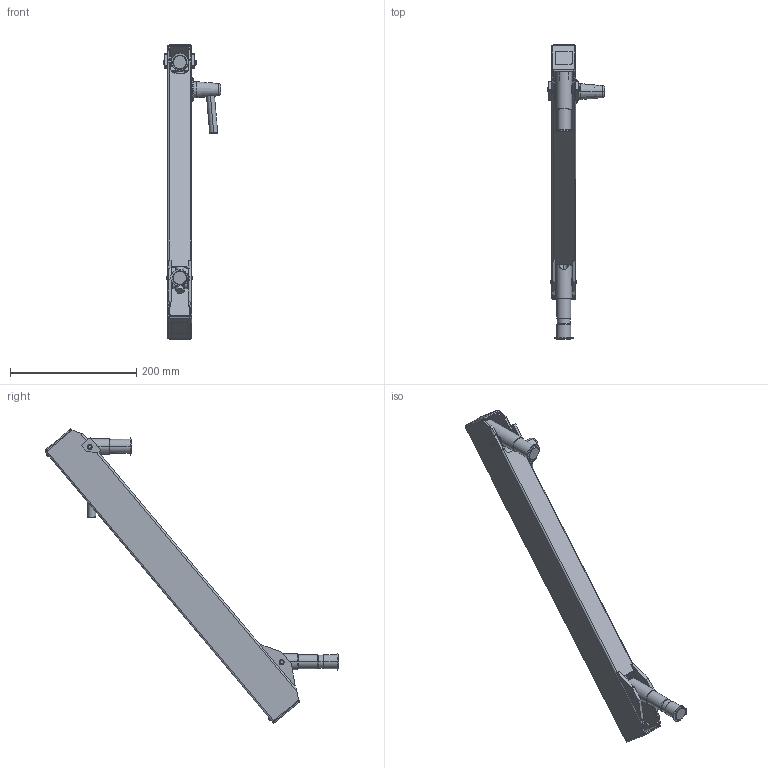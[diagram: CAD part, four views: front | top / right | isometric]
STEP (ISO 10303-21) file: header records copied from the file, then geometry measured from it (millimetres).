
FILE_DESCRIPTION (( 'STEP AP203' ), '1' );
FILE_NAME ('70-1833-00 REV AA, FLEX SECTION, 18in, 6-33 LB - UP.STEP', '2025-06-10T23:23:31', ( '' ), ( '' ), 'SwSTEP 2.0', 'SolidWorks 2025', '' );
FILE_SCHEMA (( 'CONFIG_CONTROL_DESIGN' ));
Length unit declared in the file: inch
Products named in the file (32): 71-0028-RX REV AA, TAB, MOUNT_MACHINE; 71-0030-RX REV AA, KNUCKLE, LOAD_MACHINE; 010-012-00, RETAINING RING, EXTERNAL, .875in SHAFT; 006-059-00; 010-011-00, RETAINING RING, EXT, .250 SHAFT_010-011-00; 004-144-00; 006-004-00_006-004-00; 71-1801-BLKX REV AA, FLEX HOUSING, 18in, BLACK; 71-0071-RX REV AA, AXLE PIN, LONG; 70-1833-00 REV AA, FLEX SECTION, 18in, 6-33 LB - UP; 71-0037-RX REV AA, PIVOT, THREADED; 71-0029-RX REV AA, TAB, LOAD; 005-084-00, BOLT, 1''4-20x2.75; 11-0650-00 REV AA, BRAKE HANDLE ASSEMBLY; 011-033-00; 71-0031-RX REV AA, KNUCKLE, MOUNT_MACHINE; 71-2032-RX REV AA, SPRING ROD, 18in FLEX; 11-0601-99 REV AA, CONICAL KNOB, BRAKE ASSEMBLY; 11-0027-RX REV AA, PLASTIC DISC, BRAKE ASSEMBLY_MACHINE; 013-037-00, SPRING, GREEN, 1x12; 71-3033-99 REV AA, BOLT, ADJUSTING, 15.250; 016-070-00, BEARING, PLASTIC, .5ID x .625 OD x .75; 71-0070-RX REV AA, AXLE PIN, SHORT; 11-0602-RX REV AA, HANDLE, BRAKE ASSEMBLY; 004-050-00, WASHER, FIBER, .032 THK, .265ID; 011-020-00 REV AA, PIN, KNURLED, 1.0LG x .25OD; 002-041-00_002-041-00; 71-0972-99 REV AA, END CAP, FLEX; 71-1800-RX REV AA, HOUSING, 18in FLEX; 71-0040-RX REV AA, BRAKE BLOCK, WIDE_MACHINE; 71-0038-RX REV AA, PIVOT, KNUCKLE, ELECTROLESS NICKEL; 71-1051-RX REV AA, SPRING BLOCK
Assembly tree (52 placements, depth 3):
  70-1833-00 REV AA, FLEX SECTION, 18in, 6-33 LB - UP
    71-0031-RX REV AA, KNUCKLE, MOUNT_MACHINE
    71-2032-RX REV AA, SPRING ROD, 18in FLEX
    71-0030-RX REV AA, KNUCKLE, LOAD_MACHINE
    71-0038-RX REV AA, PIVOT, KNUCKLE, ELECTROLESS NICKEL
    71-3033-99 REV AA, BOLT, ADJUSTING, 15.250
    71-0040-RX REV AA, BRAKE BLOCK, WIDE_MACHINE
    11-0027-RX REV AA, PLASTIC DISC, BRAKE ASSEMBLY_MACHINE
    71-1051-RX REV AA, SPRING BLOCK
    71-0037-RX REV AA, PIVOT, THREADED
    71-0972-99 REV AA, END CAP, FLEX  x2
    11-0650-00 REV AA, BRAKE HANDLE ASSEMBLY
      11-0601-99 REV AA, CONICAL KNOB, BRAKE ASSEMBLY
      11-0602-RX REV AA, HANDLE, BRAKE ASSEMBLY
      11-0027-RX REV AA, PLASTIC DISC, BRAKE ASSEMBLY_MACHINE
      005-084-00, BOLT, 1''4-20x2.75
    71-0071-RX REV AA, AXLE PIN, LONG
    71-1801-BLKX REV AA, FLEX HOUSING, 18in, BLACK
      71-1800-RX REV AA, HOUSING, 18in FLEX
      71-0029-RX REV AA, TAB, LOAD  x2
      71-0028-RX REV AA, TAB, MOUNT_MACHINE  x2
    71-0070-RX REV AA, AXLE PIN, SHORT
    010-011-00, RETAINING RING, EXT, .250 SHAFT_010-011-00  x4
    002-041-00_002-041-00  x2
    010-012-00, RETAINING RING, EXTERNAL, .875in SHAFT  x2
    011-020-00 REV AA, PIN, KNURLED, 1.0LG x .25OD  x2
    011-033-00
    004-144-00  x3
    013-037-00, SPRING, GREEN, 1x12
    016-070-00, BEARING, PLASTIC, .5ID x .625 OD x .75  x2
    006-059-00
    006-004-00_006-004-00  x2
    004-050-00, WASHER, FIBER, .032 THK, .265ID  x8
Bounding box: 91.63 x 466.03 x 466.39 mm (x, y, z)
Volume: 592145 mm3; surface area: 388999.2 mm2
Topology: 52 solids, 52 shells, 1064 faces, 2599 edges, 1632 vertices
Faces by surface type: cylinder 447, plane 365, cone 181, torus 45, bspline 20, sphere 6
Entity records: 53368 total; most frequent: CARTESIAN_POINT 32256, ORIENTED_EDGE 3592, DIRECTION 3575, EDGE_CURVE 1796, AXIS2_PLACEMENT_3D 1369, VERTEX_POINT 1126, VECTOR 837, LINE 837
